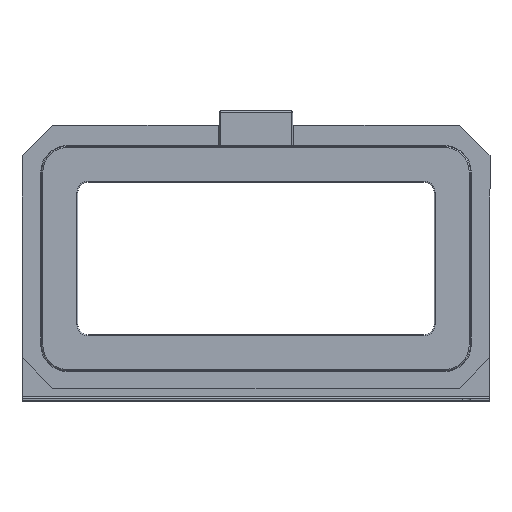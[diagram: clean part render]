
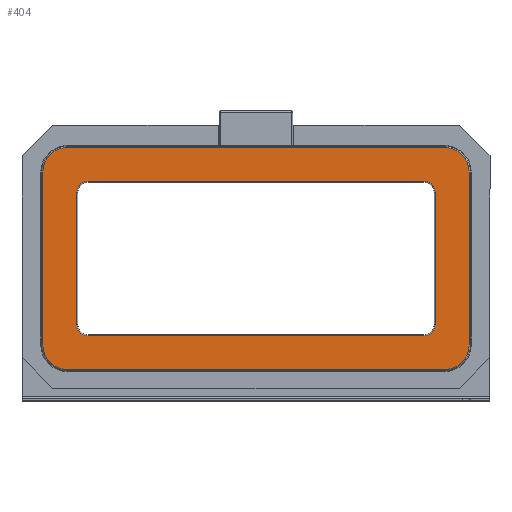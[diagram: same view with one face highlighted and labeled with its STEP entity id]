
A CAD part, top view. The second image highlights one B-rep face of the part: STEP entity #404.
In plain terms, the highlighted planar face has unit normal (0, 0, 1).
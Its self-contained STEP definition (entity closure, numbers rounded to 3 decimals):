
#5 = FACE_BOUND ( 'NONE', #2386, .T. ) ;
#22 = CARTESIAN_POINT ( 'NONE',  ( -209.5, 55., 55. ) ) ;
#42 = EDGE_CURVE ( 'NONE', #1314, #3093, #2949, .T. ) ;
#65 = DIRECTION ( 'NONE',  ( 0., -1., 0. ) ) ;
#66 = DIRECTION ( 'NONE',  ( 0., 0., -1. ) ) ;
#78 = CARTESIAN_POINT ( 'NONE',  ( 176., 75., 55. ) ) ;
#101 = DIRECTION ( 'NONE',  ( 0., 0., 1. ) ) ;
#117 = CARTESIAN_POINT ( 'NONE',  ( 185.5, 31., 55. ) ) ;
#131 = VECTOR ( 'NONE', #2113, 1000. ) ;
#158 = DIRECTION ( 'NONE',  ( 1., 0., 0. ) ) ;
#177 = AXIS2_PLACEMENT_3D ( 'NONE', #647, #2410, #902 ) ;
#189 = DIRECTION ( 'NONE',  ( 0., 1., 0. ) ) ;
#222 = VERTEX_POINT ( 'NONE', #3214 ) ;
#232 = EDGE_CURVE ( 'NONE', #2471, #395, #2314, .T. ) ;
#242 = VERTEX_POINT ( 'NONE', #711 ) ;
#287 = VECTOR ( 'NONE', #2150, 1000. ) ;
#290 = VECTOR ( 'NONE', #65, 1000. ) ;
#307 = DIRECTION ( 'NONE',  ( 1., 0., 0. ) ) ;
#313 = VECTOR ( 'NONE', #189, 1000. ) ;
#324 = ORIENTED_EDGE ( 'NONE', *, *, #845, .T. ) ;
#327 = VECTOR ( 'NONE', #2758, 1000. ) ;
#361 = VECTOR ( 'NONE', #1976, 1000. ) ;
#364 = LINE ( 'NONE', #1548, #290 ) ;
#376 = VERTEX_POINT ( 'NONE', #2592 ) ;
#378 = DIRECTION ( 'NONE',  ( 0., 0., -1. ) ) ;
#391 = ORIENTED_EDGE ( 'NONE', *, *, #1930, .T. ) ;
#395 = VERTEX_POINT ( 'NONE', #1576 ) ;
#396 = CARTESIAN_POINT ( 'NONE',  ( -185.5, 249., 55. ) ) ;
#401 = ORIENTED_EDGE ( 'NONE', *, *, #1670, .T. ) ;
#404 = ADVANCED_FACE ( 'NONE', ( #5, #580 ), #1085, .T. ) ;
#410 = ORIENTED_EDGE ( 'NONE', *, *, #887, .T. ) ;
#435 = VERTEX_POINT ( 'NONE', #979 ) ;
#437 = CARTESIAN_POINT ( 'NONE',  ( 0., 0., 55. ) ) ;
#459 = DIRECTION ( 'NONE',  ( 0., 0., 1. ) ) ;
#503 = DIRECTION ( 'NONE',  ( -1., 0., 0. ) ) ;
#565 = ORIENTED_EDGE ( 'NONE', *, *, #2052, .T. ) ;
#580 = FACE_OUTER_BOUND ( 'NONE', #2886, .T. ) ;
#588 = ORIENTED_EDGE ( 'NONE', *, *, #42, .T. ) ;
#592 = VECTOR ( 'NONE', #503, 1000. ) ;
#628 = VERTEX_POINT ( 'NONE', #78 ) ;
#630 = CIRCLE ( 'NONE', #3240, 11. ) ;
#647 = CARTESIAN_POINT ( 'NONE',  ( -185.5, 225., 55. ) ) ;
#671 = LINE ( 'NONE', #757, #592 ) ;
#711 = CARTESIAN_POINT ( 'NONE',  ( 165., 64., 55. ) ) ;
#757 = CARTESIAN_POINT ( 'NONE',  ( -165., 64., 55. ) ) ;
#792 = LINE ( 'NONE', #396, #287 ) ;
#843 = DIRECTION ( 'NONE',  ( 0., 0., -1. ) ) ;
#844 = VECTOR ( 'NONE', #307, 1000. ) ;
#845 = EDGE_CURVE ( 'NONE', #222, #2641, #1187, .T. ) ;
#887 = EDGE_CURVE ( 'NONE', #435, #628, #364, .T. ) ;
#902 = DIRECTION ( 'NONE',  ( 1., 0., 0. ) ) ;
#920 = ORIENTED_EDGE ( 'NONE', *, *, #2411, .T. ) ;
#943 = CIRCLE ( 'NONE', #177, 24. ) ;
#966 = VERTEX_POINT ( 'NONE', #1334 ) ;
#979 = CARTESIAN_POINT ( 'NONE',  ( 176., 205., 55. ) ) ;
#1028 = LINE ( 'NONE', #2717, #361 ) ;
#1030 = CARTESIAN_POINT ( 'NONE',  ( -165., 216., 55. ) ) ;
#1073 = AXIS2_PLACEMENT_3D ( 'NONE', #1586, #101, #1844 ) ;
#1081 = CIRCLE ( 'NONE', #1556, 11. ) ;
#1084 = CARTESIAN_POINT ( 'NONE',  ( -176., 75., 55. ) ) ;
#1085 = PLANE ( 'NONE',  #2744 ) ;
#1102 = EDGE_CURVE ( 'NONE', #3171, #1314, #2254, .T. ) ;
#1174 = CARTESIAN_POINT ( 'NONE',  ( 209.5, 225., 55. ) ) ;
#1187 = CIRCLE ( 'NONE', #2118, 11. ) ;
#1193 = ORIENTED_EDGE ( 'NONE', *, *, #232, .T. ) ;
#1194 = EDGE_CURVE ( 'NONE', #1878, #1991, #1333, .T. ) ;
#1206 = ORIENTED_EDGE ( 'NONE', *, *, #1288, .T. ) ;
#1281 = CARTESIAN_POINT ( 'NONE',  ( -165., 205., 55. ) ) ;
#1288 = EDGE_CURVE ( 'NONE', #1705, #2471, #2791, .T. ) ;
#1314 = VERTEX_POINT ( 'NONE', #2161 ) ;
#1330 = DIRECTION ( 'NONE',  ( 1., 0., 0. ) ) ;
#1333 = CIRCLE ( 'NONE', #2793, 11. ) ;
#1334 = CARTESIAN_POINT ( 'NONE',  ( -185.5, 249., 55. ) ) ;
#1432 = ORIENTED_EDGE ( 'NONE', *, *, #1102, .T. ) ;
#1537 = DIRECTION ( 'NONE',  ( 1., 0., 0. ) ) ;
#1548 = CARTESIAN_POINT ( 'NONE',  ( 176., 75., 55. ) ) ;
#1551 = CARTESIAN_POINT ( 'NONE',  ( 165., 75., 55. ) ) ;
#1556 = AXIS2_PLACEMENT_3D ( 'NONE', #1551, #66, #1802 ) ;
#1576 = CARTESIAN_POINT ( 'NONE',  ( 209.5, 225., 55. ) ) ;
#1578 = EDGE_CURVE ( 'NONE', #1991, #222, #1028, .T. ) ;
#1586 = CARTESIAN_POINT ( 'NONE',  ( 185.5, 225., 55. ) ) ;
#1653 = DIRECTION ( 'NONE',  ( 0., 0., 1. ) ) ;
#1661 = CARTESIAN_POINT ( 'NONE',  ( 185.5, 31., 55. ) ) ;
#1670 = EDGE_CURVE ( 'NONE', #2922, #966, #792, .T. ) ;
#1693 = LINE ( 'NONE', #117, #131 ) ;
#1705 = VERTEX_POINT ( 'NONE', #1661 ) ;
#1802 = DIRECTION ( 'NONE',  ( 1., 0., 0. ) ) ;
#1844 = DIRECTION ( 'NONE',  ( 1., 0., 0. ) ) ;
#1878 = VERTEX_POINT ( 'NONE', #2494 ) ;
#1879 = CARTESIAN_POINT ( 'NONE',  ( 165., 205., 55. ) ) ;
#1930 = EDGE_CURVE ( 'NONE', #242, #1878, #671, .T. ) ;
#1936 = DIRECTION ( 'NONE',  ( 0., 0., 1. ) ) ;
#1976 = DIRECTION ( 'NONE',  ( 0., 1., 0. ) ) ;
#1991 = VERTEX_POINT ( 'NONE', #1084 ) ;
#2052 = EDGE_CURVE ( 'NONE', #3093, #1705, #1693, .T. ) ;
#2113 = DIRECTION ( 'NONE',  ( 1., 0., 0. ) ) ;
#2118 = AXIS2_PLACEMENT_3D ( 'NONE', #1281, #3055, #1537 ) ;
#2131 = EDGE_CURVE ( 'NONE', #376, #435, #630, .T. ) ;
#2135 = DIRECTION ( 'NONE',  ( 1., 0., 0. ) ) ;
#2150 = DIRECTION ( 'NONE',  ( -1., 0., 0. ) ) ;
#2161 = CARTESIAN_POINT ( 'NONE',  ( -209.5, 55., 55. ) ) ;
#2213 = AXIS2_PLACEMENT_3D ( 'NONE', #2961, #459, #2984 ) ;
#2218 = ORIENTED_EDGE ( 'NONE', *, *, #3008, .T. ) ;
#2254 = LINE ( 'NONE', #22, #327 ) ;
#2314 = LINE ( 'NONE', #1174, #313 ) ;
#2334 = ORIENTED_EDGE ( 'NONE', *, *, #1578, .T. ) ;
#2349 = CARTESIAN_POINT ( 'NONE',  ( -165., 75., 55. ) ) ;
#2384 = CARTESIAN_POINT ( 'NONE',  ( 209.5, 55., 55. ) ) ;
#2386 = EDGE_LOOP ( 'NONE', ( #2334, #324, #2889, #2610, #410, #2218, #391, #2689 ) ) ;
#2400 = AXIS2_PLACEMENT_3D ( 'NONE', #3172, #1653, #158 ) ;
#2410 = DIRECTION ( 'NONE',  ( 0., 0., 1. ) ) ;
#2411 = EDGE_CURVE ( 'NONE', #395, #2922, #2589, .T. ) ;
#2471 = VERTEX_POINT ( 'NONE', #2384 ) ;
#2494 = CARTESIAN_POINT ( 'NONE',  ( -165., 64., 55. ) ) ;
#2503 = CARTESIAN_POINT ( 'NONE',  ( 185.5, 249., 55. ) ) ;
#2506 = EDGE_CURVE ( 'NONE', #966, #3171, #943, .T. ) ;
#2589 = CIRCLE ( 'NONE', #1073, 24. ) ;
#2592 = CARTESIAN_POINT ( 'NONE',  ( 165., 216., 55. ) ) ;
#2601 = DIRECTION ( 'NONE',  ( 1., 0., 0. ) ) ;
#2610 = ORIENTED_EDGE ( 'NONE', *, *, #2131, .T. ) ;
#2641 = VERTEX_POINT ( 'NONE', #1030 ) ;
#2689 = ORIENTED_EDGE ( 'NONE', *, *, #1194, .T. ) ;
#2717 = CARTESIAN_POINT ( 'NONE',  ( -176., 205., 55. ) ) ;
#2744 = AXIS2_PLACEMENT_3D ( 'NONE', #437, #1936, #1330 ) ;
#2758 = DIRECTION ( 'NONE',  ( 0., -1., 0. ) ) ;
#2791 = CIRCLE ( 'NONE', #2400, 24. ) ;
#2793 = AXIS2_PLACEMENT_3D ( 'NONE', #2349, #843, #2601 ) ;
#2800 = CARTESIAN_POINT ( 'NONE',  ( 165., 216., 55. ) ) ;
#2807 = ORIENTED_EDGE ( 'NONE', *, *, #2506, .T. ) ;
#2846 = CARTESIAN_POINT ( 'NONE',  ( -209.5, 225., 55. ) ) ;
#2886 = EDGE_LOOP ( 'NONE', ( #1432, #588, #565, #1206, #1193, #920, #401, #2807 ) ) ;
#2889 = ORIENTED_EDGE ( 'NONE', *, *, #3045, .T. ) ;
#2922 = VERTEX_POINT ( 'NONE', #2503 ) ;
#2929 = LINE ( 'NONE', #2800, #844 ) ;
#2949 = CIRCLE ( 'NONE', #2213, 24. ) ;
#2961 = CARTESIAN_POINT ( 'NONE',  ( -185.5, 55., 55. ) ) ;
#2984 = DIRECTION ( 'NONE',  ( 1., 0., 0. ) ) ;
#3008 = EDGE_CURVE ( 'NONE', #628, #242, #1081, .T. ) ;
#3045 = EDGE_CURVE ( 'NONE', #2641, #376, #2929, .T. ) ;
#3055 = DIRECTION ( 'NONE',  ( 0., 0., -1. ) ) ;
#3089 = CARTESIAN_POINT ( 'NONE',  ( -185.5, 31., 55. ) ) ;
#3093 = VERTEX_POINT ( 'NONE', #3089 ) ;
#3171 = VERTEX_POINT ( 'NONE', #2846 ) ;
#3172 = CARTESIAN_POINT ( 'NONE',  ( 185.5, 55., 55. ) ) ;
#3214 = CARTESIAN_POINT ( 'NONE',  ( -176., 205., 55. ) ) ;
#3240 = AXIS2_PLACEMENT_3D ( 'NONE', #1879, #378, #2135 ) ;
